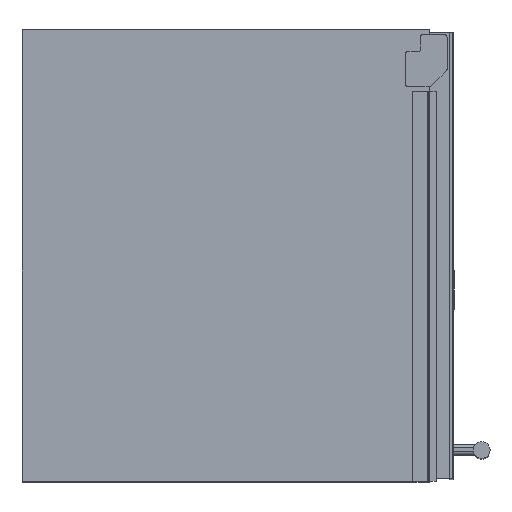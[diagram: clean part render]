
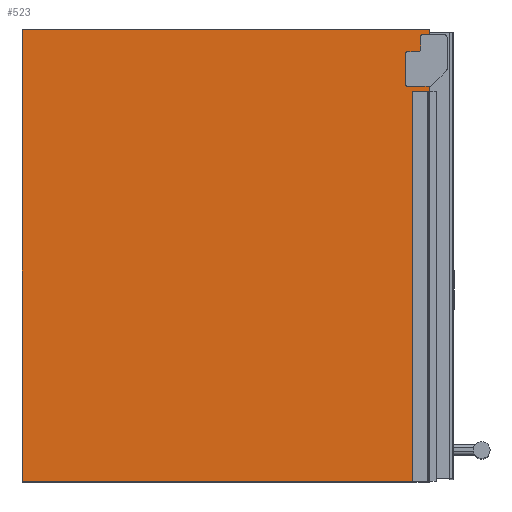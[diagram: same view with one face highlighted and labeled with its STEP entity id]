
A CAD part, top view. The second image highlights one B-rep face of the part: STEP entity #523.
In plain terms, the highlighted planar face has unit normal (0, 0, 1).
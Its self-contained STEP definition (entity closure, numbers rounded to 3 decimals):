
#396=CIRCLE('',#3172,5.);
#397=CIRCLE('',#3173,3.);
#398=CIRCLE('',#3174,3.);
#399=CIRCLE('',#3175,3.);
#400=CIRCLE('',#3176,3.);
#523=ADVANCED_FACE('',(#825),#710,.F.);
#710=PLANE('',#3177);
#825=FACE_OUTER_BOUND('',#982,.T.);
#982=EDGE_LOOP('',(#1274,#1275,#1276,#1277,#1278,#1279,#1280,#1281,#1282,
#1283,#1284,#1285,#1286,#1287,#1288,#1289,#1290,#1291,#1292));
#1274=ORIENTED_EDGE('',*,*,#2290,.F.);
#1275=ORIENTED_EDGE('',*,*,#2291,.F.);
#1276=ORIENTED_EDGE('',*,*,#2292,.T.);
#1277=ORIENTED_EDGE('',*,*,#2293,.T.);
#1278=ORIENTED_EDGE('',*,*,#2294,.F.);
#1279=ORIENTED_EDGE('',*,*,#2295,.T.);
#1280=ORIENTED_EDGE('',*,*,#2296,.T.);
#1281=ORIENTED_EDGE('',*,*,#2297,.T.);
#1282=ORIENTED_EDGE('',*,*,#2298,.T.);
#1283=ORIENTED_EDGE('',*,*,#2299,.T.);
#1284=ORIENTED_EDGE('',*,*,#2300,.T.);
#1285=ORIENTED_EDGE('',*,*,#2301,.T.);
#1286=ORIENTED_EDGE('',*,*,#2302,.T.);
#1287=ORIENTED_EDGE('',*,*,#2303,.T.);
#1288=ORIENTED_EDGE('',*,*,#2304,.T.);
#1289=ORIENTED_EDGE('',*,*,#2305,.F.);
#1290=ORIENTED_EDGE('',*,*,#2306,.F.);
#1291=ORIENTED_EDGE('',*,*,#2307,.T.);
#1292=ORIENTED_EDGE('',*,*,#2308,.T.);
#2002=VERTEX_POINT('',#4366);
#2003=VERTEX_POINT('',#4367);
#2004=VERTEX_POINT('',#4369);
#2005=VERTEX_POINT('',#4371);
#2006=VERTEX_POINT('',#4373);
#2007=VERTEX_POINT('',#4375);
#2008=VERTEX_POINT('',#4377);
#2009=VERTEX_POINT('',#4379);
#2010=VERTEX_POINT('',#4381);
#2011=VERTEX_POINT('',#4383);
#2012=VERTEX_POINT('',#4385);
#2013=VERTEX_POINT('',#4387);
#2014=VERTEX_POINT('',#4389);
#2015=VERTEX_POINT('',#4391);
#2016=VERTEX_POINT('',#4393);
#2017=VERTEX_POINT('',#4395);
#2018=VERTEX_POINT('',#4397);
#2019=VERTEX_POINT('',#4399);
#2020=VERTEX_POINT('',#4401);
#2290=EDGE_CURVE('',#2002,#2003,#2676,.T.);
#2291=EDGE_CURVE('',#2004,#2002,#2677,.T.);
#2292=EDGE_CURVE('',#2004,#2005,#2678,.T.);
#2293=EDGE_CURVE('',#2005,#2006,#2679,.T.);
#2294=EDGE_CURVE('',#2007,#2006,#2680,.T.);
#2295=EDGE_CURVE('',#2007,#2008,#396,.T.);
#2296=EDGE_CURVE('',#2008,#2009,#2681,.T.);
#2297=EDGE_CURVE('',#2009,#2010,#397,.T.);
#2298=EDGE_CURVE('',#2010,#2011,#2682,.T.);
#2299=EDGE_CURVE('',#2011,#2012,#398,.T.);
#2300=EDGE_CURVE('',#2012,#2013,#2683,.T.);
#2301=EDGE_CURVE('',#2013,#2014,#399,.T.);
#2302=EDGE_CURVE('',#2014,#2015,#2684,.T.);
#2303=EDGE_CURVE('',#2015,#2016,#400,.T.);
#2304=EDGE_CURVE('',#2016,#2017,#2685,.T.);
#2305=EDGE_CURVE('',#2018,#2017,#2686,.T.);
#2306=EDGE_CURVE('',#2019,#2018,#2687,.T.);
#2307=EDGE_CURVE('',#2019,#2020,#2688,.T.);
#2308=EDGE_CURVE('',#2020,#2003,#2689,.T.);
#2676=LINE('',#4365,#2924);
#2677=LINE('',#4368,#2925);
#2678=LINE('',#4370,#2926);
#2679=LINE('',#4372,#2927);
#2680=LINE('',#4374,#2928);
#2681=LINE('',#4378,#2929);
#2682=LINE('',#4382,#2930);
#2683=LINE('',#4386,#2931);
#2684=LINE('',#4390,#2932);
#2685=LINE('',#4394,#2933);
#2686=LINE('',#4396,#2934);
#2687=LINE('',#4398,#2935);
#2688=LINE('',#4400,#2936);
#2689=LINE('',#4402,#2937);
#2924=VECTOR('',#3523,1.);
#2925=VECTOR('',#3524,1.);
#2926=VECTOR('',#3525,1.);
#2927=VECTOR('',#3526,1.);
#2928=VECTOR('',#3527,1.);
#2929=VECTOR('',#3530,1.);
#2930=VECTOR('',#3533,1.);
#2931=VECTOR('',#3536,1.);
#2932=VECTOR('',#3539,1.);
#2933=VECTOR('',#3542,1.);
#2934=VECTOR('',#3543,1.);
#2935=VECTOR('',#3544,1.);
#2936=VECTOR('',#3545,1.);
#2937=VECTOR('',#3546,1.);
#3172=AXIS2_PLACEMENT_3D('',#4376,#3528,#3529);
#3173=AXIS2_PLACEMENT_3D('',#4380,#3531,#3532);
#3174=AXIS2_PLACEMENT_3D('',#4384,#3534,#3535);
#3175=AXIS2_PLACEMENT_3D('',#4388,#3537,#3538);
#3176=AXIS2_PLACEMENT_3D('',#4392,#3540,#3541);
#3177=AXIS2_PLACEMENT_3D('',#4403,#3547,#3548);
#3523=DIRECTION('',(0.,-1.,0.));
#3524=DIRECTION('',(-1.,0.,0.));
#3525=DIRECTION('',(0.,-1.,0.));
#3526=DIRECTION('',(1.,0.,0.));
#3527=DIRECTION('',(0.,-1.,0.));
#3528=DIRECTION('',(0.,0.,-1.));
#3529=DIRECTION('',(0.,1.,0.));
#3530=DIRECTION('',(-1.,0.,0.));
#3531=DIRECTION('',(0.,0.,-1.));
#3532=DIRECTION('',(0.,1.,0.));
#3533=DIRECTION('',(0.,1.,0.));
#3534=DIRECTION('',(0.,0.,-1.));
#3535=DIRECTION('',(0.,1.,0.));
#3536=DIRECTION('',(1.,0.,0.));
#3537=DIRECTION('',(0.,0.,1.));
#3538=DIRECTION('',(0.,1.,0.));
#3539=DIRECTION('',(0.,1.,0.));
#3540=DIRECTION('',(0.,0.,-1.));
#3541=DIRECTION('',(0.,1.,0.));
#3542=DIRECTION('',(1.,0.,0.));
#3543=DIRECTION('',(0.,-1.,0.));
#3544=DIRECTION('',(1.,0.,0.));
#3545=DIRECTION('',(0.,-1.,0.));
#3546=DIRECTION('',(1.,0.,0.));
#3547=DIRECTION('',(0.,0.,-1.));
#3548=DIRECTION('',(1.,0.,0.));
#4365=CARTESIAN_POINT('',(-45.8,216.5,800.));
#4366=CARTESIAN_POINT('',(-45.8,216.5,800.));
#4367=CARTESIAN_POINT('',(-45.8,-297.5,800.));
#4368=CARTESIAN_POINT('',(-25.8,216.5,800.));
#4369=CARTESIAN_POINT('',(-25.8,216.5,800.));
#4370=CARTESIAN_POINT('',(-25.8,216.5,800.));
#4371=CARTESIAN_POINT('',(-25.8,-297.5,800.));
#4372=CARTESIAN_POINT('',(-560.,-297.5,800.));
#4373=CARTESIAN_POINT('',(-24.,-297.5,800.));
#4374=CARTESIAN_POINT('',(-24.,297.5,800.));
#4375=CARTESIAN_POINT('',(-24.,222.501,800.));
#4376=CARTESIAN_POINT('',(-24.071,227.5,800.));
#4377=CARTESIAN_POINT('',(-24.071,222.5,800.));
#4378=CARTESIAN_POINT('',(-24.071,222.5,800.));
#4379=CARTESIAN_POINT('',(-52.,222.5,800.));
#4380=CARTESIAN_POINT('',(-52.,225.5,800.));
#4381=CARTESIAN_POINT('',(-55.,225.5,800.));
#4382=CARTESIAN_POINT('',(-55.,225.5,800.));
#4383=CARTESIAN_POINT('',(-55.,265.5,800.));
#4384=CARTESIAN_POINT('',(-52.,265.5,800.));
#4385=CARTESIAN_POINT('',(-52.,268.5,800.));
#4386=CARTESIAN_POINT('',(-52.,268.5,800.));
#4387=CARTESIAN_POINT('',(-38.,268.5,800.));
#4388=CARTESIAN_POINT('',(-38.,271.5,800.));
#4389=CARTESIAN_POINT('',(-35.,271.5,800.));
#4390=CARTESIAN_POINT('',(-35.,271.5,800.));
#4391=CARTESIAN_POINT('',(-35.,288.5,800.));
#4392=CARTESIAN_POINT('',(-32.,288.5,800.));
#4393=CARTESIAN_POINT('',(-32.,291.5,800.));
#4394=CARTESIAN_POINT('',(-32.,291.5,800.));
#4395=CARTESIAN_POINT('',(-24.,291.5,800.));
#4396=CARTESIAN_POINT('',(-24.,297.5,800.));
#4397=CARTESIAN_POINT('',(-24.,297.5,800.));
#4398=CARTESIAN_POINT('',(-560.,297.5,800.));
#4399=CARTESIAN_POINT('',(-560.,297.5,800.));
#4400=CARTESIAN_POINT('',(-560.,297.5,800.));
#4401=CARTESIAN_POINT('',(-560.,-297.5,800.));
#4402=CARTESIAN_POINT('',(-560.,-297.5,800.));
#4403=CARTESIAN_POINT('',(-560.,297.5,800.));
